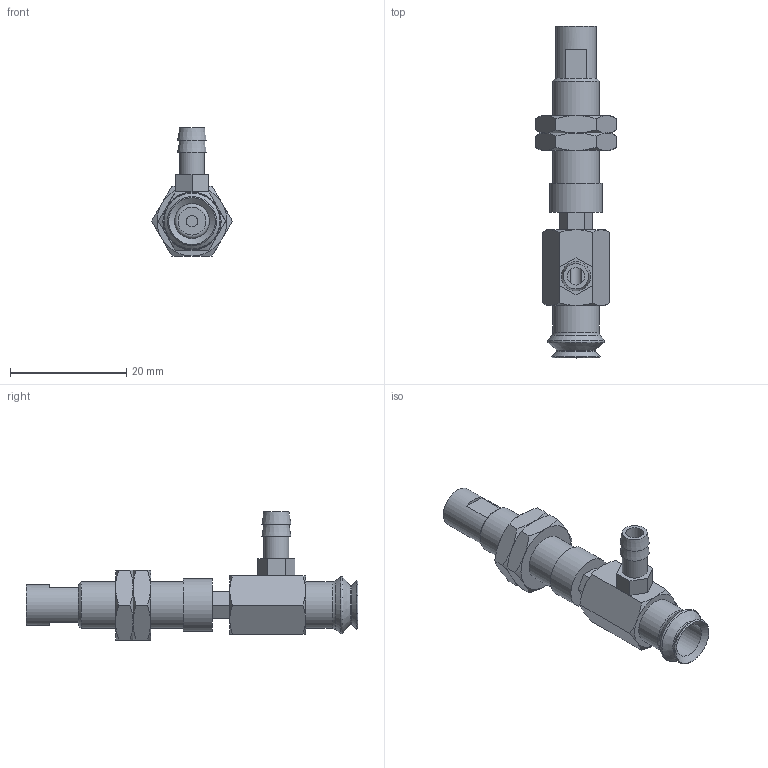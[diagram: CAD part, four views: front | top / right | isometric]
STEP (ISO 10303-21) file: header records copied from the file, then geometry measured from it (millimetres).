
FILE_DESCRIPTION(('STEP AP203'),'1');
FILE_NAME('-T.stp','2025-04-24T05:51:31',(' '),(' '),'Spatial InterOp 3D',' ',' ');
FILE_SCHEMA(('CONFIG_CONTROL_DESIGN'));
Length unit declared in the file: millimetre
Products named in the file (7): BNABPJYH-8-3-※-T; CONNECTOR_H-8-3; NAPJH-8-3-NUT; NAPJTH-8-3-FBODY; NAPJTH-8-3-MBODY; BPJG-8-※; T
Assembly tree (7 placements, depth 2):
  BNABPJYH-8-3-※-T
    CONNECTOR_H-8-3
    NAPJH-8-3-NUT  x2
    NAPJTH-8-3-FBODY
    NAPJTH-8-3-MBODY
    BPJG-8-※
    T
Bounding box: 13.86 x 57 x 22 mm (x, y, z)
Volume: 3514.6 mm3; surface area: 4498.4 mm2
Topology: 7 solids, 7 shells, 154 faces, 331 edges, 202 vertices
Faces by surface type: plane 73, cone 55, cylinder 17, torus 9
Full cylindrical faces by diameter (mm): 2 x1, 3 x1, 4 x2, 4.134 x2, 4.3 x1, 5 x2, 6 x2, 7 x1, 7.188 x2, 8 x2, 9 x1
Entity records: 3866 total; most frequent: CARTESIAN_POINT 889, DIRECTION 546, ORIENTED_EDGE 470, EDGE_CURVE 235, AXIS2_PLACEMENT_3D 226, EDGE_LOOP 194, VERTEX_POINT 167, FACE_OUTER_BOUND 156
